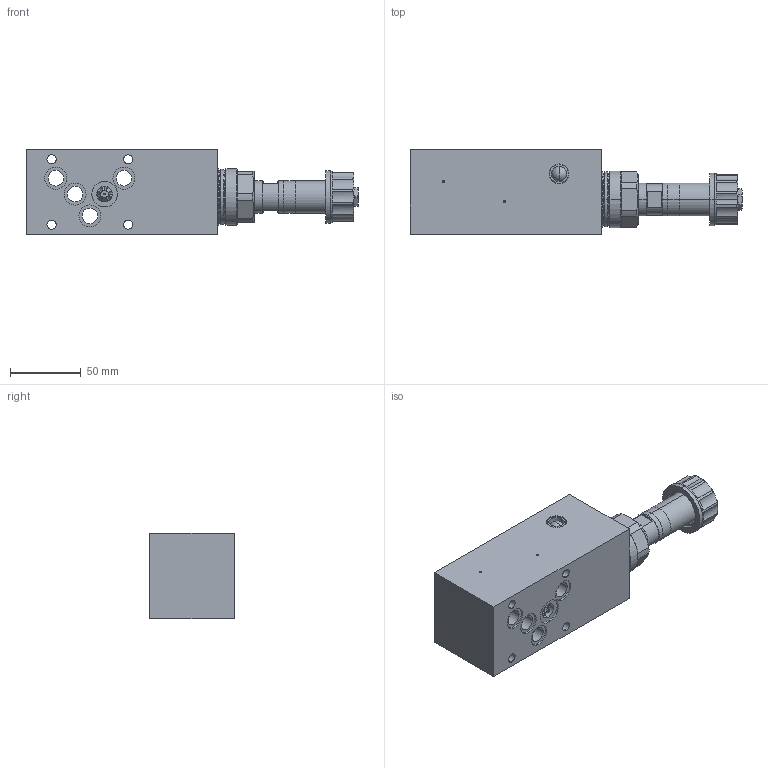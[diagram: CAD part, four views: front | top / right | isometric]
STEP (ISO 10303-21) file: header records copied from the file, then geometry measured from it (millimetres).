
FILE_DESCRIPTION (( 'STEP AP214' ), '1' );
FILE_NAME ('DNPSA10-B.STEP', '2017-04-19T10:54:40', ( '' ), ( '' ), 'SwSTEP 2.0', 'SolidWorks 2016', '' );
FILE_SCHEMA (( 'AUTOMOTIVE_DESIGN' ));
Length unit declared in the file: millimetre
Products named in the file (1): DNPSA10-B
Bounding box: 233.9 x 59.5 x 60 mm (x, y, z)
Volume: 513138.8 mm3; surface area: 71850.3 mm2
Topology: 3 solids, 5 shells, 471 faces, 1181 edges, 758 vertices
Faces by surface type: plane 202, cylinder 147, cone 74, torus 28, bspline 16, sphere 4
Entity records: 20547 total; most frequent: CARTESIAN_POINT 4325, ORIENTED_EDGE 2350, DIRECTION 2318, EDGE_CURVE 1175, AXIS2_PLACEMENT_3D 883, VERTEX_POINT 758, VECTOR 552, LINE 552
